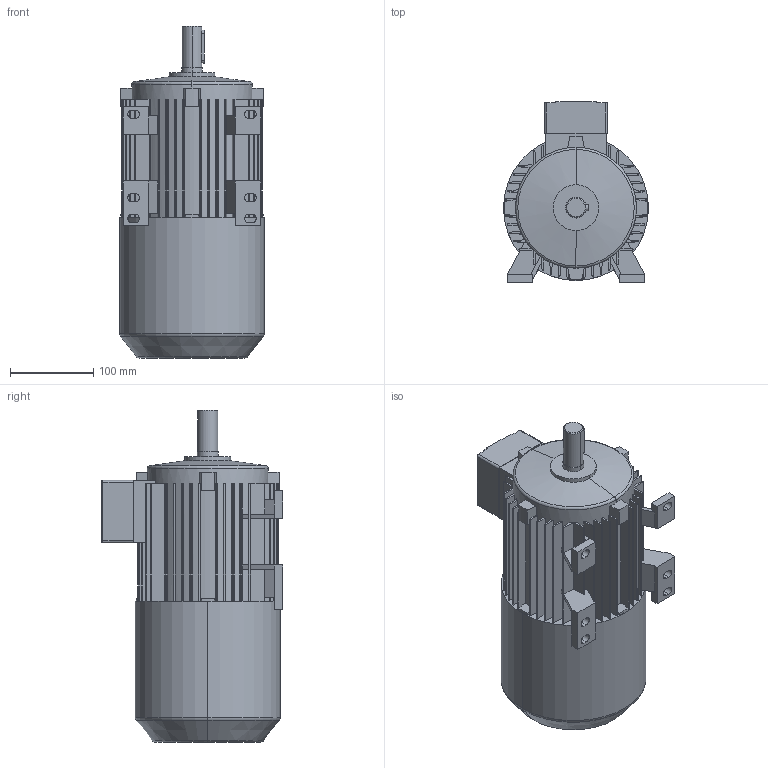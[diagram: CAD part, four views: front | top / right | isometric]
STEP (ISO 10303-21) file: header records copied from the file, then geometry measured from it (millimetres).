
FILE_DESCRIPTION((''),'2;1');
FILE_NAME('1LA7090-2AA10-Z-G26_PRT','2002-04-12T',('martin könig'),(''),'PRO/ENGINEER BY PARAMETRIC TECHNOLOGY CORPORATION, 2002030','PRO/ENGINEER BY PARAMETRIC TECHNOLOGY CORPORATION, 2002030','');
FILE_SCHEMA(('CONFIG_CONTROL_DESIGN'));
Length unit declared in the file: millimetre
Products named in the file (1): 1LA7090-2AA10-Z-G26_PRT
Bounding box: 174 x 218 x 398.5 mm (x, y, z)
Volume: 7213347.7 mm3; surface area: 391311.4 mm2
Topology: 1 solids, 1 shells, 360 faces, 1030 edges, 678 vertices
Faces by surface type: plane 248, cylinder 100, torus 6, cone 6
Entity records: 11847 total; most frequent: CARTESIAN_POINT 2099, ORIENTED_EDGE 2060, DIRECTION 2040, EDGE_CURVE 1030, VECTOR 736, LINE 736, VERTEX_POINT 678, AXIS2_PLACEMENT_3D 652
